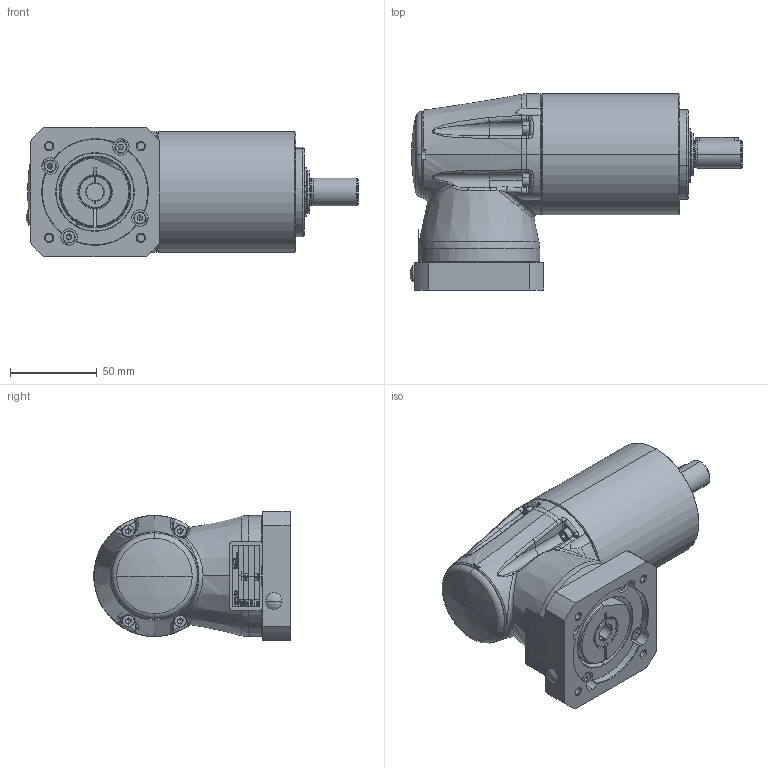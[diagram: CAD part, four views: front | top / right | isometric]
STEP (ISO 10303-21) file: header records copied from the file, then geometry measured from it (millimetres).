
FILE_DESCRIPTION (( 'STEP AP214' ), '1' );
FILE_NAME ('RL-010-RRR-FFF-MMM-S-LL-XXX-AXX-0000.STEP', '2019-10-30T15:04:34', ( '' ), ( '' ), 'SwSTEP 2.0', 'SolidWorks 2019', '' );
FILE_SCHEMA (( 'AUTOMOTIVE_DESIGN' ));
Length unit declared in the file: millimetre
Products named in the file (1): RL-010-RRR-FFF-MMM-S-LL-XXX-AXX-0000
Bounding box: 191.89 x 113.5 x 75 mm (x, y, z)
Surface area: 75948.8 mm2 (no closed solid volume)
Topology: 0 solids, 80 shells, 560 faces, 2652 edges, 2143 vertices
Faces by surface type: plane 187, cylinder 147, cone 91, bspline 67, torus 64, sphere 4
Entity records: 43006 total; most frequent: CARTESIAN_POINT 17616, ORIENTED_EDGE 3656, DIRECTION 3347, EDGE_CURVE 2640, VERTEX_POINT 2143, VECTOR 1163, LINE 1163, AXIS2_PLACEMENT_3D 1092
